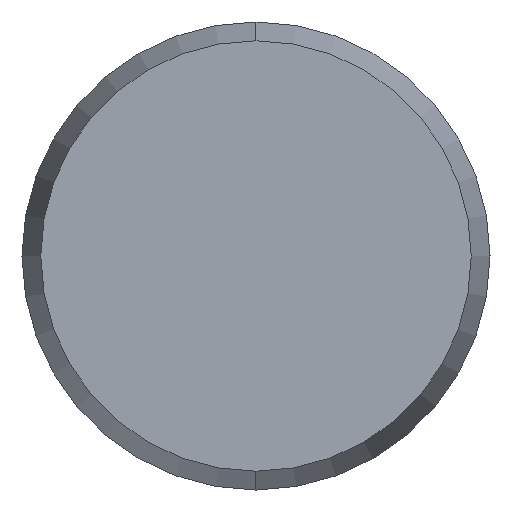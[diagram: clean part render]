
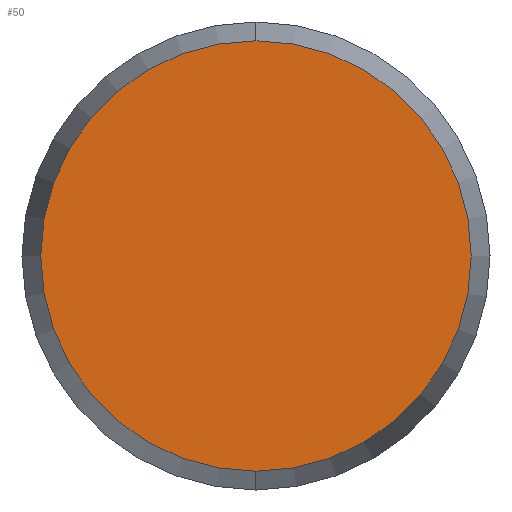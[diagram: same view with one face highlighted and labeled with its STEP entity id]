
A CAD part, left-side view. The second image highlights one B-rep face of the part: STEP entity #50.
In plain terms, the highlighted planar face has unit normal (-1, 0, 0).
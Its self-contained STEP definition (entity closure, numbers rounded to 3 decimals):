
#1 = VERTEX_POINT ( 'NONE', #77 ) ;
#2 = EDGE_CURVE ( 'NONE', #1, #56, #97, .T. ) ;
#39 = ORIENTED_EDGE ( 'NONE', *, *, #2, .F. ) ;
#41 = ORIENTED_EDGE ( 'NONE', *, *, #70, .F. ) ;
#50 = ADVANCED_FACE ( 'NONE', ( #166 ), #140, .F. ) ;
#56 = VERTEX_POINT ( 'NONE', #133 ) ;
#69 = EDGE_LOOP ( 'NONE', ( #39, #41 ) ) ;
#70 = EDGE_CURVE ( 'NONE', #56, #1, #185, .T. ) ;
#77 = CARTESIAN_POINT ( 'NONE',  ( -15., 0., 3.678 ) ) ;
#93 = DIRECTION ( 'NONE',  ( 0., 0., -1. ) ) ;
#94 = DIRECTION ( 'NONE',  ( 1., 0., 0. ) ) ;
#95 = CARTESIAN_POINT ( 'NONE',  ( -15., 0., 0. ) ) ;
#96 = AXIS2_PLACEMENT_3D ( 'NONE', #95, #94, #93 ) ;
#97 = CIRCLE ( 'NONE', #96, 3.678 ) ;
#133 = CARTESIAN_POINT ( 'NONE',  ( -15., 0., -3.678 ) ) ;
#139 = DIRECTION ( 'NONE',  ( 0., 0., -1. ) ) ;
#140 = PLANE ( 'NONE',  #165 ) ;
#141 = DIRECTION ( 'NONE',  ( 1., 0., 0. ) ) ;
#142 = CARTESIAN_POINT ( 'NONE',  ( -15., 0., 0. ) ) ;
#165 = AXIS2_PLACEMENT_3D ( 'NONE', #142, #141, #139 ) ;
#166 = FACE_OUTER_BOUND ( 'NONE', #69, .T. ) ;
#185 = CIRCLE ( 'NONE', #186, 3.678 ) ;
#186 = AXIS2_PLACEMENT_3D ( 'NONE', #189, #188, #187 ) ;
#187 = DIRECTION ( 'NONE',  ( 0., 0., -1. ) ) ;
#188 = DIRECTION ( 'NONE',  ( 1., 0., 0. ) ) ;
#189 = CARTESIAN_POINT ( 'NONE',  ( -15., 0., 0. ) ) ;
